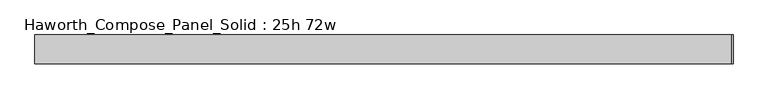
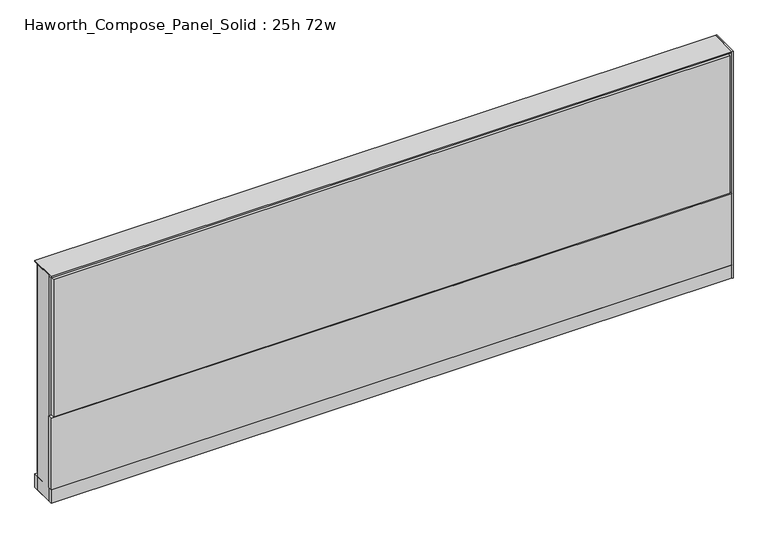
"""IFC4 building model written with IfcOpenShell, lengths in millimetres: furniture geometry, Haworth_Compose_Panel_Solid : 25h 72w."""

from ifc_helpers import new_model, si_unit, point, frame, frame_2d, origin, origin_with_axes, place, context, project, spatial, polyline, circle_curve, trimmed, segment, composite_curve, outline, extrude, source, transform, mapped, element, save


def haworth_compose_panel_solid_25h_72w_005dc976(model_context):
    return source(origin(), model_context, "Body", "SweptSolid", [
        extrude(outline(composite_curve([segment(trimmed(circle_curve(frame_2d((-835.7597098, 0.0)), 12.7), [point((-848.4597098, 0.0))], [point((-823.0597098, 0.0))], False, "CARTESIAN"), True, "CONTINUOUS"), segment(trimmed(circle_curve(frame_2d((-835.7597098, 0.0)), 12.7), [point((-823.0597098, 0.0))], [point((-848.4597098, 0.0))], False, "CARTESIAN"), True, "CONTINUOUS")], self_intersect=False)), origin_with_axes(), (0.0, 0.0, 1.0), 12.7),
        extrude(outline(composite_curve([segment(trimmed(circle_curve(frame_2d((840.6402902, 0.0)), 12.7), [point((827.9402902, 0.0))], [point((853.3402902, 0.0))], False, "CARTESIAN"), True, "CONTINUOUS"), segment(trimmed(circle_curve(frame_2d((840.6402902, 0.0)), 12.7), [point((853.3402902, 0.0))], [point((827.9402902, 0.0))], False, "CARTESIAN"), True, "CONTINUOUS")], self_intersect=False)), origin_with_axes(), (0.0, 0.0, 1.0), 12.7),
        extrude(outline(polyline([(920.0152902, 38.1), (920.0152902, -38.1), (916.8402902, -38.1), (916.8402902, 38.1), (920.0152902, 38.1)])), frame((0.0, 0.0, 12.7), z_axis=(0.0, 0.0, 1.0), x_axis=(1.0, 0.0, 0.0)), (0.0, 0.0, 1.0), 644.525),
        extrude(outline(polyline([(910.4902902, 38.1), (910.4902902, 25.4), (-905.6097098, 25.4), (-905.6097098, 38.1), (910.4902902, 38.1)])), frame((0.0, 0.0, 53.975), z_axis=(0.0, 0.0, 1.0), x_axis=(1.0, 0.0, 0.0)), (0.0, 0.0, 1.0), 593.725),
        extrude(outline(polyline([(916.8402902, -38.1), (-911.9597098, -38.1), (-911.9597098, -25.4), (916.8402902, -25.4), (916.8402902, -38.1)])), frame((0.0, 0.0, 50.8), z_axis=(0.0, 0.0, 1.0), x_axis=(1.0, 0.0, 0.0)), (0.0, 0.0, 1.0), 203.2),
        extrude(outline(polyline([(910.4902902, -38.1), (-905.6097098, -38.1), (-905.6097098, -25.4), (910.4902902, -25.4), (910.4902902, -38.1)])), frame((0.0, 0.0, 257.175), z_axis=(0.0, 0.0, 1.0), x_axis=(1.0, 0.0, 0.0)), (0.0, 0.0, 1.0), 390.525),
        extrude(outline(polyline([(916.8402902, 25.4), (916.8402902, -25.4), (-911.9597098, -25.4), (-911.9597098, 25.4), (916.8402902, 25.4)])), frame((0.0, 0.0, 12.7), z_axis=(0.0, 0.0, 1.0), x_axis=(1.0, 0.0, 0.0)), (0.0, 0.0, 1.0), 641.35),
        extrude(outline(polyline([(-911.9597098, -38.1), (-911.9597098, 38.1), (916.8402902, 38.1), (916.8402902, -38.1), (-911.9597098, -38.1)])), frame((0.0, 0.0, 12.7), z_axis=(0.0, 0.0, 1.0), x_axis=(1.0, 0.0, 0.0)), (0.0, 0.0, 1.0), 38.1),
        extrude(outline(polyline([(-911.9597098, -38.1), (-911.9597098, 38.1), (916.8402902, 38.1), (916.8402902, -38.1), (-911.9597098, -38.1)])), frame((0.0, 0.0, 654.05), z_axis=(0.0, 0.0, 1.0), x_axis=(1.0, 0.0, 0.0)), (0.0, 0.0, 1.0), 3.175),
    ])


if __name__ == "__main__":
    model = new_model("IFC4")
    model_context = context("Model", 3, world=origin())
    ifc_project = project(units=[si_unit("LENGTHUNIT", "METRE", prefix="MILLI")], contexts=[model_context])
    site = spatial("IfcSite", under=ifc_project)
    building = spatial("IfcBuilding", under=site)
    placement = place(None, origin())
    haworth_compose_panel_solid_25h_72w_shape = haworth_compose_panel_solid_25h_72w_005dc976(model_context)
    element("IfcFurniture", 1, ObjectType="Haworth_Compose_Panel_Solid : 25h 72w", at=placement, inside=building, context=model_context, shape_type="MappedRepresentation", body=[
        mapped(haworth_compose_panel_solid_25h_72w_shape, transform((0.0, 0.0, 0.0), x_axis=(1.0, 0.0, 0.0), y_axis=(0.0, 1.0, 0.0), z_axis=(0.0, 0.0, 1.0))),
    ])
    save(model, "model.ifc")
